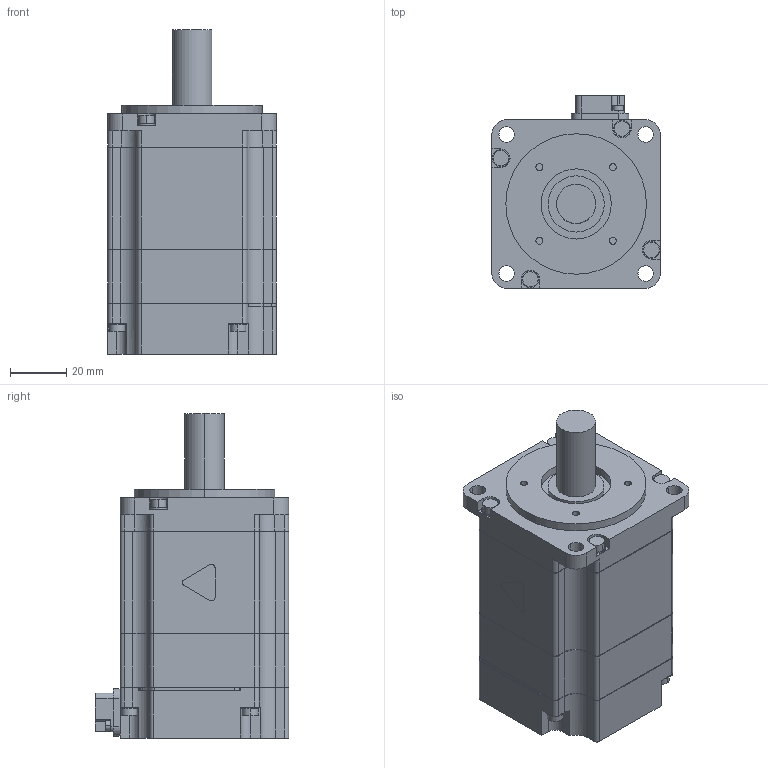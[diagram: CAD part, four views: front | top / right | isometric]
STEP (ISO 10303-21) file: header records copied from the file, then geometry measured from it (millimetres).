
FILE_DESCRIPTION((''),'2;1');
FILE_NAME('SGM7A-04A','2013-11-20T',('shibuya'),('YASKAWA ELECTRIC CORCORATION'),'PRO/ENGINEER BY PARAMETRIC TECHNOLOGY CORPORATION, 2011490','PRO/ENGINEER BY PARAMETRIC TECHNOLOGY CORPORATION, 2011490','');
FILE_SCHEMA(('AUTOMOTIVE_DESIGN { 1 0 10303 214 1 1 1 1 }'));
Length unit declared in the file: millimetre
Products named in the file (1): SGM7A-04A
Bounding box: 60.1 x 68.8 x 115.6 mm (x, y, z)
Volume: 282351.2 mm3; surface area: 31145.1 mm2
Topology: 1 solids, 5 shells, 439 faces, 1144 edges, 758 vertices
Faces by surface type: plane 234, cylinder 205
Entity records: 19062 total; most frequent: DIRECTION 2456, CARTESIAN_POINT 2343, ORIENTED_EDGE 2288, EDGE_CURVE 1144, FILL_AREA_STYLE_COLOUR 878, FILL_AREA_STYLE 878, SURFACE_STYLE_FILL_AREA 878, SURFACE_SIDE_STYLE 878
